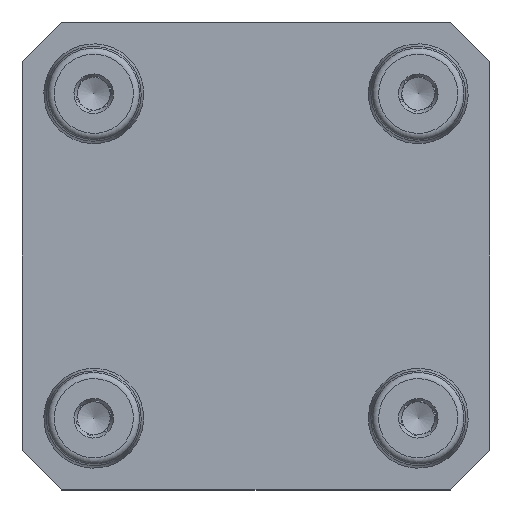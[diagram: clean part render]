
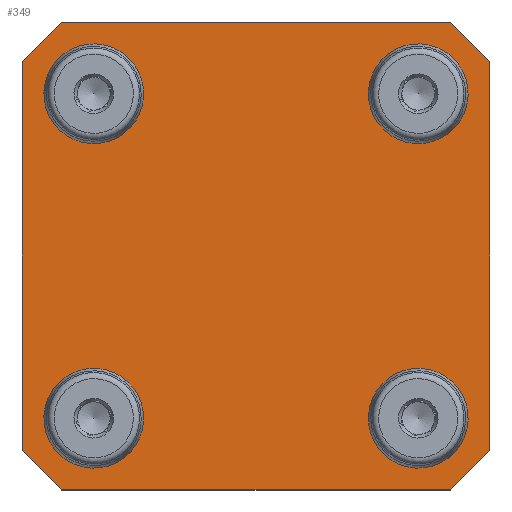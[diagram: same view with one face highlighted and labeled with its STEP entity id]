
A CAD part, front view. The second image highlights one B-rep face of the part: STEP entity #349.
In plain terms, the highlighted planar face has unit normal (0, -1, 0).
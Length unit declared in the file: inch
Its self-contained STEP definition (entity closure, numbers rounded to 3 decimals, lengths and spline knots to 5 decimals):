
#17 = EDGE_CURVE ( 'NONE', #6402, #4267, #6487, .T. ) ;
#39 = EDGE_CURVE ( 'NONE', #4328, #4328, #6779, .T. ) ;
#153 = EDGE_CURVE ( 'NONE', #643, #643, #1850, .T. ) ;
#209 = VERTEX_POINT ( 'NONE', #5508 ) ;
#211 = CARTESIAN_POINT ( 'NONE',  ( -1.47638, -0.98425, -1.22638 ) ) ;
#218 = LINE ( 'NONE', #848, #5594 ) ;
#251 = CARTESIAN_POINT ( 'NONE',  ( 1.22638, -0.98425, 1.47638 ) ) ;
#289 = VERTEX_POINT ( 'NONE', #2047 ) ;
#293 = VERTEX_POINT ( 'NONE', #4727 ) ;
#313 = LINE ( 'NONE', #251, #435 ) ;
#341 = CARTESIAN_POINT ( 'NONE',  ( 1.02362, -0.98425, 1.02362 ) ) ;
#349 = ADVANCED_FACE ( 'NONE', ( #5869, #6897, #1054, #514, #2660 ), #2501, .T. ) ;
#435 = VECTOR ( 'NONE', #6164, 39.37008 ) ;
#514 = FACE_BOUND ( 'NONE', #5690, .T. ) ;
#544 = VERTEX_POINT ( 'NONE', #5463 ) ;
#636 = AXIS2_PLACEMENT_3D ( 'NONE', #341, #1937, #4102 ) ;
#643 = VERTEX_POINT ( 'NONE', #2101 ) ;
#702 = CARTESIAN_POINT ( 'NONE',  ( -1.02362, -0.98425, -1.02362 ) ) ;
#708 = LINE ( 'NONE', #211, #6057 ) ;
#843 = EDGE_CURVE ( 'NONE', #2742, #2742, #3540, .T. ) ;
#848 = CARTESIAN_POINT ( 'NONE',  ( 1.47638, -0.98425, -1.22638 ) ) ;
#855 = AXIS2_PLACEMENT_3D ( 'NONE', #2514, #4658, #6789 ) ;
#1024 = CARTESIAN_POINT ( 'NONE',  ( 1.22638, -0.98425, -1.47638 ) ) ;
#1054 = FACE_BOUND ( 'NONE', #6019, .T. ) ;
#1078 = VECTOR ( 'NONE', #3996, 39.37008 ) ;
#1167 = DIRECTION ( 'NONE',  ( 0., -1., 0. ) ) ;
#1263 = DIRECTION ( 'NONE',  ( 0.707, 0., -0.707 ) ) ;
#1265 = LINE ( 'NONE', #3411, #2700 ) ;
#1324 = ORIENTED_EDGE ( 'NONE', *, *, #3592, .F. ) ;
#1429 = CARTESIAN_POINT ( 'NONE',  ( -1.22638, -0.98425, 1.47638 ) ) ;
#1712 = CARTESIAN_POINT ( 'NONE',  ( 1.22638, -0.98425, 1.47638 ) ) ;
#1837 = CARTESIAN_POINT ( 'NONE',  ( -1.22638, -0.98425, -1.47638 ) ) ;
#1847 = EDGE_CURVE ( 'NONE', #289, #5134, #6121, .T. ) ;
#1850 = CIRCLE ( 'NONE', #636, 0.23655 ) ;
#1859 = CARTESIAN_POINT ( 'NONE',  ( -1.22638, -0.98425, -1.47638 ) ) ;
#1899 = VERTEX_POINT ( 'NONE', #1429 ) ;
#1937 = DIRECTION ( 'NONE',  ( 0., -1., 0. ) ) ;
#1961 = DIRECTION ( 'NONE',  ( 0., -1., 0. ) ) ;
#2047 = CARTESIAN_POINT ( 'NONE',  ( 1.22638, -0.98425, -1.47638 ) ) ;
#2101 = CARTESIAN_POINT ( 'NONE',  ( 1.02362, -0.98425, 0.78707 ) ) ;
#2249 = CARTESIAN_POINT ( 'NONE',  ( -1.02362, -0.98425, -1.26017 ) ) ;
#2333 = EDGE_CURVE ( 'NONE', #209, #209, #5999, .T. ) ;
#2501 = PLANE ( 'NONE',  #855 ) ;
#2514 = CARTESIAN_POINT ( 'NONE',  ( 0., -0.98425, 0. ) ) ;
#2660 = FACE_OUTER_BOUND ( 'NONE', #5912, .T. ) ;
#2700 = VECTOR ( 'NONE', #5990, 39.37008 ) ;
#2742 = VERTEX_POINT ( 'NONE', #5883 ) ;
#2917 = LINE ( 'NONE', #5045, #4473 ) ;
#2922 = DIRECTION ( 'NONE',  ( 0., 0., -1. ) ) ;
#3018 = LINE ( 'NONE', #1024, #6886 ) ;
#3305 = CARTESIAN_POINT ( 'NONE',  ( -1.47638, -0.98425, 1.22638 ) ) ;
#3323 = ORIENTED_EDGE ( 'NONE', *, *, #6471, .F. ) ;
#3411 = CARTESIAN_POINT ( 'NONE',  ( -1.47638, -0.98425, 1.22638 ) ) ;
#3420 = ORIENTED_EDGE ( 'NONE', *, *, #6579, .F. ) ;
#3473 = ORIENTED_EDGE ( 'NONE', *, *, #6746, .F. ) ;
#3529 = VERTEX_POINT ( 'NONE', #3305 ) ;
#3540 = CIRCLE ( 'NONE', #5322, 0.23655 ) ;
#3592 = EDGE_CURVE ( 'NONE', #5134, #544, #708, .T. ) ;
#3799 = DIRECTION ( 'NONE',  ( 0., 0., -1. ) ) ;
#3841 = EDGE_LOOP ( 'NONE', ( #6767 ) ) ;
#3996 = DIRECTION ( 'NONE',  ( -1., 0., 0. ) ) ;
#4040 = ORIENTED_EDGE ( 'NONE', *, *, #2333, .F. ) ;
#4102 = DIRECTION ( 'NONE',  ( 0., 0., -1. ) ) ;
#4137 = DIRECTION ( 'NONE',  ( 0.707, 0., 0.707 ) ) ;
#4267 = VERTEX_POINT ( 'NONE', #6256 ) ;
#4328 = VERTEX_POINT ( 'NONE', #2249 ) ;
#4388 = CARTESIAN_POINT ( 'NONE',  ( 1.47638, -0.98425, 1.22638 ) ) ;
#4473 = VECTOR ( 'NONE', #4137, 39.37008 ) ;
#4504 = ORIENTED_EDGE ( 'NONE', *, *, #843, .F. ) ;
#4547 = AXIS2_PLACEMENT_3D ( 'NONE', #5685, #1961, #6920 ) ;
#4658 = DIRECTION ( 'NONE',  ( 0., -1., 0. ) ) ;
#4727 = CARTESIAN_POINT ( 'NONE',  ( 1.47638, -0.98425, -1.22638 ) ) ;
#4801 = ORIENTED_EDGE ( 'NONE', *, *, #5681, .F. ) ;
#4919 = CARTESIAN_POINT ( 'NONE',  ( 1.02362, -0.98425, -1.02362 ) ) ;
#5045 = CARTESIAN_POINT ( 'NONE',  ( -1.22638, -0.98425, 1.47638 ) ) ;
#5118 = DIRECTION ( 'NONE',  ( 0., 0., -1. ) ) ;
#5134 = VERTEX_POINT ( 'NONE', #1859 ) ;
#5212 = AXIS2_PLACEMENT_3D ( 'NONE', #702, #5469, #3799 ) ;
#5267 = ORIENTED_EDGE ( 'NONE', *, *, #17, .F. ) ;
#5282 = ORIENTED_EDGE ( 'NONE', *, *, #39, .F. ) ;
#5322 = AXIS2_PLACEMENT_3D ( 'NONE', #4919, #1167, #2922 ) ;
#5463 = CARTESIAN_POINT ( 'NONE',  ( -1.47638, -0.98425, -1.22638 ) ) ;
#5469 = DIRECTION ( 'NONE',  ( 0., -1., 0. ) ) ;
#5508 = CARTESIAN_POINT ( 'NONE',  ( -1.02362, -0.98425, 0.78707 ) ) ;
#5594 = VECTOR ( 'NONE', #5118, 39.37008 ) ;
#5681 = EDGE_CURVE ( 'NONE', #293, #289, #3018, .T. ) ;
#5685 = CARTESIAN_POINT ( 'NONE',  ( -1.02362, -0.98425, 1.02362 ) ) ;
#5690 = EDGE_LOOP ( 'NONE', ( #4040 ) ) ;
#5797 = ORIENTED_EDGE ( 'NONE', *, *, #6667, .F. ) ;
#5869 = FACE_BOUND ( 'NONE', #5903, .T. ) ;
#5879 = VECTOR ( 'NONE', #1263, 39.37008 ) ;
#5883 = CARTESIAN_POINT ( 'NONE',  ( 1.02362, -0.98425, -1.26017 ) ) ;
#5903 = EDGE_LOOP ( 'NONE', ( #5282 ) ) ;
#5912 = EDGE_LOOP ( 'NONE', ( #1324, #6328, #4801, #5797, #5267, #3473, #3420, #3323 ) ) ;
#5990 = DIRECTION ( 'NONE',  ( 0., 0., 1. ) ) ;
#5999 = CIRCLE ( 'NONE', #4547, 0.23655 ) ;
#6019 = EDGE_LOOP ( 'NONE', ( #4504 ) ) ;
#6032 = DIRECTION ( 'NONE',  ( -0.707, 0., 0.707 ) ) ;
#6057 = VECTOR ( 'NONE', #6032, 39.37008 ) ;
#6121 = LINE ( 'NONE', #1837, #1078 ) ;
#6164 = DIRECTION ( 'NONE',  ( 1., 0., 0. ) ) ;
#6256 = CARTESIAN_POINT ( 'NONE',  ( 1.47638, -0.98425, 1.22638 ) ) ;
#6328 = ORIENTED_EDGE ( 'NONE', *, *, #1847, .F. ) ;
#6344 = DIRECTION ( 'NONE',  ( -0.707, 0., -0.707 ) ) ;
#6402 = VERTEX_POINT ( 'NONE', #1712 ) ;
#6471 = EDGE_CURVE ( 'NONE', #544, #3529, #1265, .T. ) ;
#6487 = LINE ( 'NONE', #4388, #5879 ) ;
#6579 = EDGE_CURVE ( 'NONE', #3529, #1899, #2917, .T. ) ;
#6667 = EDGE_CURVE ( 'NONE', #4267, #293, #218, .T. ) ;
#6746 = EDGE_CURVE ( 'NONE', #1899, #6402, #313, .T. ) ;
#6767 = ORIENTED_EDGE ( 'NONE', *, *, #153, .F. ) ;
#6779 = CIRCLE ( 'NONE', #5212, 0.23655 ) ;
#6789 = DIRECTION ( 'NONE',  ( 0., 0., -1. ) ) ;
#6886 = VECTOR ( 'NONE', #6344, 39.37008 ) ;
#6897 = FACE_BOUND ( 'NONE', #3841, .T. ) ;
#6920 = DIRECTION ( 'NONE',  ( 0., 0., -1. ) ) ;
